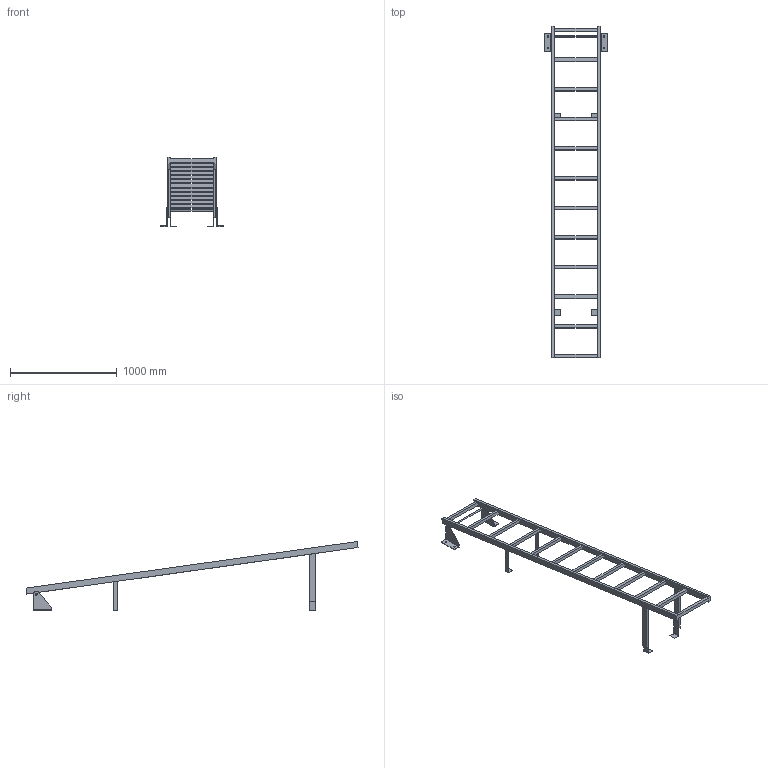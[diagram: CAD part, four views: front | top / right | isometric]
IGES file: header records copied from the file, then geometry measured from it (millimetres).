
Start section:  PTC IGES file: 52307386.igs
Global section: file name: 52307386.igs; native system: Creo Parametric by PTC Inc.; preprocessor: 2022162; author: wep; organization: Unknown; date: 20241016.120013; units: millimetre
Bounding box: 590 x 3107.47 x 646.3 mm (x, y, z)
Surface area: 1989326 mm2 (no closed solid volume)
Topology: 0 solids, 0 shells, 134 faces, 724 edges, 724 vertices
Faces by surface type: bspline 118, revolution 16
